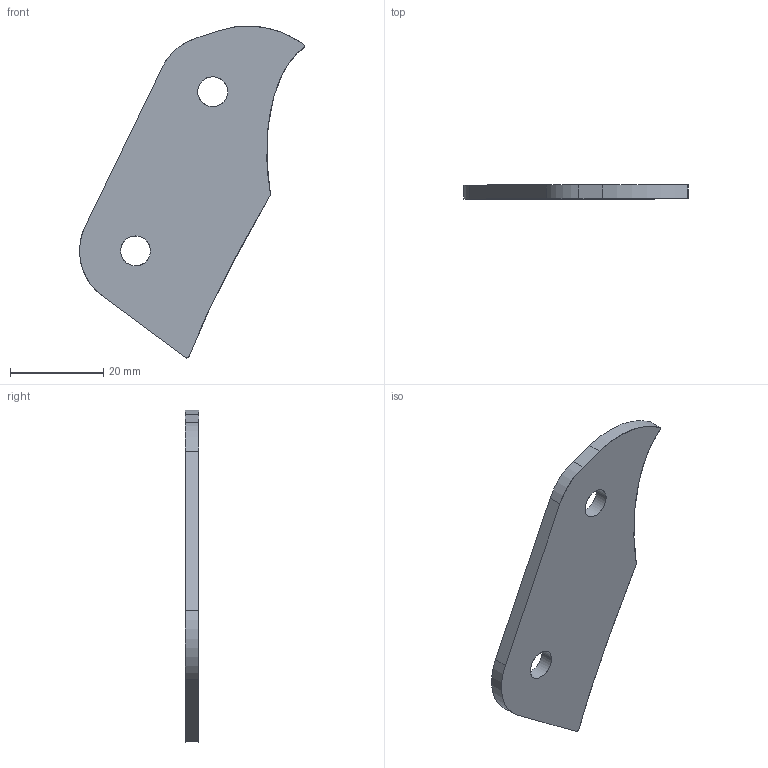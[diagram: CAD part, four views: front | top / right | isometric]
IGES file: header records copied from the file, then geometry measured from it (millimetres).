
Start section: START RECORD GO HERE.
Global section: file name: 20M_AE_ 21004 (chape interieure aile arriere).igs; native system: IBM CATIA IGES - CATIA Version 5 Release 19 ; preprocessor: CATIA Version 5 Release 19 ; author: mik75; organization: LAPTOP-SUH344G9; date: 20200115.192157; units: millimetre
Bounding box: 48.17 x 3 x 71.16 mm (x, y, z)
Surface area: 4350 mm2 (no closed solid volume)
Topology: 0 solids, 0 shells, 19 faces, 102 edges, 102 vertices
Faces by surface type: revolution 10, plane 6, extrusion 3
